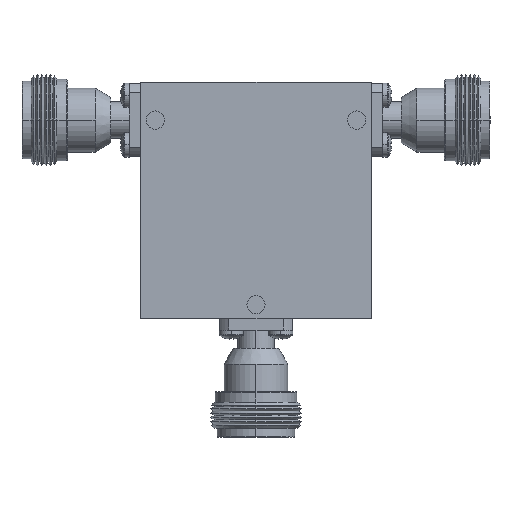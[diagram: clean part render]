
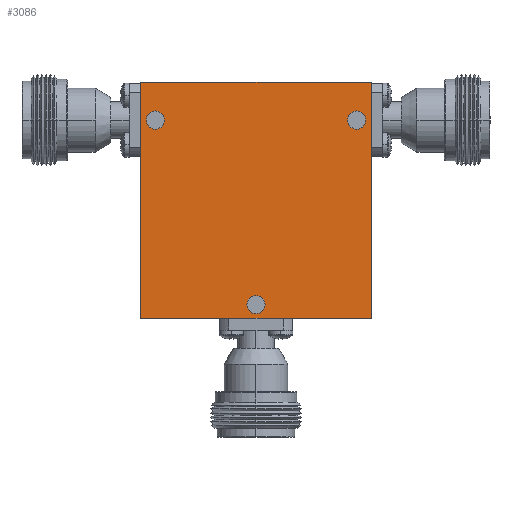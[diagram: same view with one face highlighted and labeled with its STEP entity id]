
A CAD part, top view. The second image highlights one B-rep face of the part: STEP entity #3086.
In plain terms, the highlighted planar face has unit normal (0, 0, 1) as drawn and (0, 0, -1) by its records, which use the part's own axes.
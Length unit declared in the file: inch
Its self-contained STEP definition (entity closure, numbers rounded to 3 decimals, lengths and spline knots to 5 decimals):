
#90 = CARTESIAN_POINT ( 'NONE',  ( 0.6275, 0.55, -0.365 ) ) ;
#217 = ORIENTED_EDGE ( 'NONE', *, *, #490, .F. ) ;
#321 = EDGE_CURVE ( 'NONE', #3771, #5027, #1354, .T. ) ;
#424 = VERTEX_POINT ( 'NONE', #90 ) ;
#479 = FACE_BOUND ( 'NONE', #5242, .T. ) ;
#490 = EDGE_CURVE ( 'NONE', #2524, #3771, #1093, .T. ) ;
#512 = ORIENTED_EDGE ( 'NONE', *, *, #2251, .F. ) ;
#522 = CARTESIAN_POINT ( 'NONE',  ( 0.69, 0.55, -0.365 ) ) ;
#650 = ORIENTED_EDGE ( 'NONE', *, *, #3485, .F. ) ;
#676 = CIRCLE ( 'NONE', #851, 0.0625 ) ;
#686 = CARTESIAN_POINT ( 'NONE',  ( 0., -0.715, -0.365 ) ) ;
#851 = AXIS2_PLACEMENT_3D ( 'NONE', #3667, #1979, #3280 ) ;
#874 = ORIENTED_EDGE ( 'NONE', *, *, #1350, .T. ) ;
#1028 = AXIS2_PLACEMENT_3D ( 'NONE', #4312, #3001, #2608 ) ;
#1066 = DIRECTION ( 'NONE',  ( 0., 0., 1. ) ) ;
#1085 = DIRECTION ( 'NONE',  ( 0., 0., 1. ) ) ;
#1093 = LINE ( 'NONE', #5251, #1102 ) ;
#1102 = VECTOR ( 'NONE', #3109, 39.37008 ) ;
#1131 = CARTESIAN_POINT ( 'NONE',  ( 0.79, 0.81, -0.365 ) ) ;
#1200 = CIRCLE ( 'NONE', #2613, 0.0625 ) ;
#1278 = VECTOR ( 'NONE', #3884, 39.37008 ) ;
#1292 = CIRCLE ( 'NONE', #4041, 0.0625 ) ;
#1350 = EDGE_CURVE ( 'NONE', #4128, #2118, #1292, .T. ) ;
#1354 = LINE ( 'NONE', #3008, #1621 ) ;
#1528 = CARTESIAN_POINT ( 'NONE',  ( 0.7525, 0.55, -0.365 ) ) ;
#1542 = CIRCLE ( 'NONE', #4116, 0.0625 ) ;
#1545 = DIRECTION ( 'NONE',  ( 1., 0., 0. ) ) ;
#1621 = VECTOR ( 'NONE', #3028, 39.37008 ) ;
#1649 = CARTESIAN_POINT ( 'NONE',  ( -0.79, -0.81, -0.365 ) ) ;
#1786 = EDGE_CURVE ( 'NONE', #424, #2026, #3874, .T. ) ;
#1799 = FACE_OUTER_BOUND ( 'NONE', #4537, .T. ) ;
#1908 = CARTESIAN_POINT ( 'NONE',  ( -0.79, 0.81, -0.365 ) ) ;
#1910 = AXIS2_PLACEMENT_3D ( 'NONE', #522, #4368, #3510 ) ;
#1920 = DIRECTION ( 'NONE',  ( 0., 0., 1. ) ) ;
#1979 = DIRECTION ( 'NONE',  ( 0., 0., 1. ) ) ;
#2026 = VERTEX_POINT ( 'NONE', #1528 ) ;
#2059 = CARTESIAN_POINT ( 'NONE',  ( -0.7525, 0.55, -0.365 ) ) ;
#2066 = CARTESIAN_POINT ( 'NONE',  ( -0.69, 0.55, -0.365 ) ) ;
#2118 = VERTEX_POINT ( 'NONE', #5056 ) ;
#2194 = ORIENTED_EDGE ( 'NONE', *, *, #1786, .T. ) ;
#2251 = EDGE_CURVE ( 'NONE', #4464, #2524, #2409, .T. ) ;
#2265 = FACE_BOUND ( 'NONE', #5024, .T. ) ;
#2302 = EDGE_CURVE ( 'NONE', #2118, #4128, #2734, .T. ) ;
#2409 = LINE ( 'NONE', #3060, #1278 ) ;
#2413 = DIRECTION ( 'NONE',  ( 0., 1., 0. ) ) ;
#2524 = VERTEX_POINT ( 'NONE', #1908 ) ;
#2608 = DIRECTION ( 'NONE',  ( 1., 0., 0. ) ) ;
#2613 = AXIS2_PLACEMENT_3D ( 'NONE', #5285, #1085, #3144 ) ;
#2734 = CIRCLE ( 'NONE', #1028, 0.0625 ) ;
#2956 = VERTEX_POINT ( 'NONE', #4382 ) ;
#3001 = DIRECTION ( 'NONE',  ( 0., 0., 1. ) ) ;
#3008 = CARTESIAN_POINT ( 'NONE',  ( -0.79, -0.81, -0.365 ) ) ;
#3028 = DIRECTION ( 'NONE',  ( 1., 0., 0. ) ) ;
#3034 = ORIENTED_EDGE ( 'NONE', *, *, #2302, .T. ) ;
#3048 = EDGE_CURVE ( 'NONE', #2956, #3301, #1542, .T. ) ;
#3060 = CARTESIAN_POINT ( 'NONE',  ( -0.79, 0.81, -0.365 ) ) ;
#3086 = ADVANCED_FACE ( 'NONE', ( #479, #3400, #2265, #1799 ), #4097, .F. ) ;
#3109 = DIRECTION ( 'NONE',  ( 0., -1., 0. ) ) ;
#3144 = DIRECTION ( 'NONE',  ( 1., 0., 0. ) ) ;
#3231 = EDGE_LOOP ( 'NONE', ( #5187, #3282 ) ) ;
#3271 = LINE ( 'NONE', #1131, #4141 ) ;
#3280 = DIRECTION ( 'NONE',  ( 1., 0., 0. ) ) ;
#3282 = ORIENTED_EDGE ( 'NONE', *, *, #4087, .T. ) ;
#3301 = VERTEX_POINT ( 'NONE', #4040 ) ;
#3400 = FACE_BOUND ( 'NONE', #3231, .T. ) ;
#3477 = CARTESIAN_POINT ( 'NONE',  ( 0.79, 0.81, -0.365 ) ) ;
#3485 = EDGE_CURVE ( 'NONE', #5027, #4464, #3271, .T. ) ;
#3510 = DIRECTION ( 'NONE',  ( 1., 0., 0. ) ) ;
#3629 = DIRECTION ( 'NONE',  ( 1., 0., 0. ) ) ;
#3667 = CARTESIAN_POINT ( 'NONE',  ( 0., -0.715, -0.365 ) ) ;
#3771 = VERTEX_POINT ( 'NONE', #1649 ) ;
#3874 = CIRCLE ( 'NONE', #1910, 0.0625 ) ;
#3884 = DIRECTION ( 'NONE',  ( -1., 0., 0. ) ) ;
#3942 = AXIS2_PLACEMENT_3D ( 'NONE', #4520, #1066, #1545 ) ;
#4040 = CARTESIAN_POINT ( 'NONE',  ( -0.0625, -0.715, -0.365 ) ) ;
#4041 = AXIS2_PLACEMENT_3D ( 'NONE', #2066, #4221, #4643 ) ;
#4087 = EDGE_CURVE ( 'NONE', #3301, #2956, #676, .T. ) ;
#4097 = PLANE ( 'NONE',  #3942 ) ;
#4116 = AXIS2_PLACEMENT_3D ( 'NONE', #686, #1920, #3629 ) ;
#4128 = VERTEX_POINT ( 'NONE', #2059 ) ;
#4141 = VECTOR ( 'NONE', #2413, 39.37008 ) ;
#4221 = DIRECTION ( 'NONE',  ( 0., 0., 1. ) ) ;
#4238 = ORIENTED_EDGE ( 'NONE', *, *, #4512, .T. ) ;
#4312 = CARTESIAN_POINT ( 'NONE',  ( -0.69, 0.55, -0.365 ) ) ;
#4324 = CARTESIAN_POINT ( 'NONE',  ( 0.79, -0.81, -0.365 ) ) ;
#4368 = DIRECTION ( 'NONE',  ( 0., 0., 1. ) ) ;
#4382 = CARTESIAN_POINT ( 'NONE',  ( 0.0625, -0.715, -0.365 ) ) ;
#4464 = VERTEX_POINT ( 'NONE', #3477 ) ;
#4466 = ORIENTED_EDGE ( 'NONE', *, *, #321, .F. ) ;
#4512 = EDGE_CURVE ( 'NONE', #2026, #424, #1200, .T. ) ;
#4520 = CARTESIAN_POINT ( 'NONE',  ( 0., 0., -0.365 ) ) ;
#4537 = EDGE_LOOP ( 'NONE', ( #650, #4466, #217, #512 ) ) ;
#4643 = DIRECTION ( 'NONE',  ( 1., 0., 0. ) ) ;
#5024 = EDGE_LOOP ( 'NONE', ( #3034, #874 ) ) ;
#5027 = VERTEX_POINT ( 'NONE', #4324 ) ;
#5056 = CARTESIAN_POINT ( 'NONE',  ( -0.6275, 0.55, -0.365 ) ) ;
#5187 = ORIENTED_EDGE ( 'NONE', *, *, #3048, .T. ) ;
#5242 = EDGE_LOOP ( 'NONE', ( #4238, #2194 ) ) ;
#5251 = CARTESIAN_POINT ( 'NONE',  ( -0.79, 0.81, -0.365 ) ) ;
#5285 = CARTESIAN_POINT ( 'NONE',  ( 0.69, 0.55, -0.365 ) ) ;
